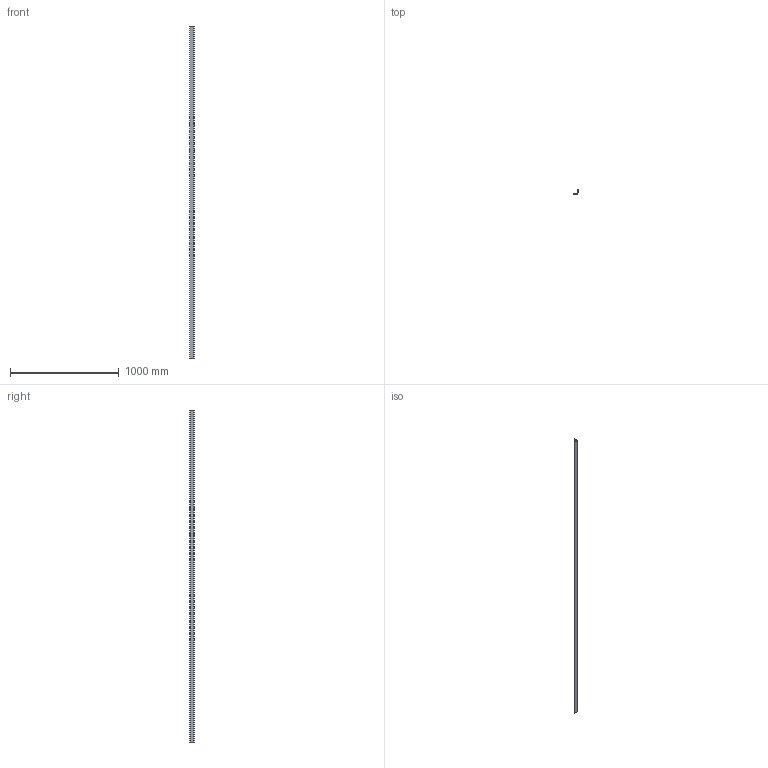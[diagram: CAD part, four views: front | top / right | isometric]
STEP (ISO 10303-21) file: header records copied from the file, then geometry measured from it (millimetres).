
FILE_DESCRIPTION (( 'STEP AP203' ), '1' );
FILE_NAME ('M14G.STEP', '2018-06-15T14:26:50', ( 'Michael Moliner' ), ( '' ), 'SwSTEP 2.0', 'SolidWorks 2018', '' );
FILE_SCHEMA (( 'CONFIG_CONTROL_DESIGN' ));
Length unit declared in the file: inch
Products named in the file (2): M14G
Bounding box: 39.62 x 37.96 x 3048 mm (x, y, z)
Volume: 146761.6 mm3; surface area: 580994.6 mm2
Topology: 1 solids, 1 shells, 14 faces, 36 edges, 24 vertices
Faces by surface type: plane 10, cylinder 4
Entity records: 585 total; most frequent: CARTESIAN_POINT 76, DIRECTION 76, ORIENTED_EDGE 72, EDGE_CURVE 36, VECTOR 28, LINE 28, AXIS2_PLACEMENT_3D 24, VERTEX_POINT 24
